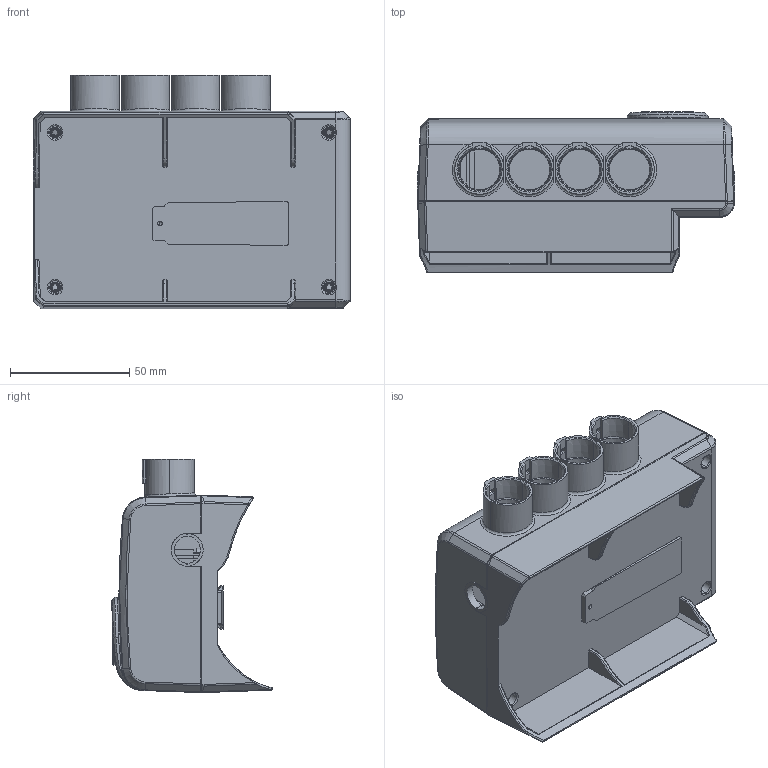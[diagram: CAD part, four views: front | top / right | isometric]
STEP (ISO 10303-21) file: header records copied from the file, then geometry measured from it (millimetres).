
FILE_DESCRIPTION (( 'STEP AP203' ), '1' );
FILE_NAME ('TC3.STEP', '2009-08-20T01:50:41', ( 'qingyunxiang' ), ( 'eng' ), 'SwSTEP 2.0', 'SolidWorks 2005204', '' );
FILE_SCHEMA (( 'CONFIG_CONTROL_DESIGN' ));
Products named in the file (3): TC3; 31605-009-控制盒上蓋-A; 31605-010-控制盒下蓋-A
Assembly tree (2 placements, depth 2):
  TC3
    31605-010-控制盒下蓋-A
    31605-009-控制盒上蓋-A
Bounding box: 133.3 x 67.32 x 97.99 mm (x, y, z)
Volume: 116013.2 mm3; surface area: 101475.8 mm2
Topology: 2 solids, 2 shells, 2213 faces, 6262 edges, 4098 vertices
Faces by surface type: plane 1676, cylinder 227, bspline 140, cone 126, torus 42, sphere 2
Entity records: 104327 total; most frequent: CARTESIAN_POINT 53826, ORIENTED_EDGE 12524, DIRECTION 8202, EDGE_CURVE 6262, VERTEX_POINT 4098, VECTOR 2738, LINE 2738, AXIS2_PLACEMENT_3D 2732
